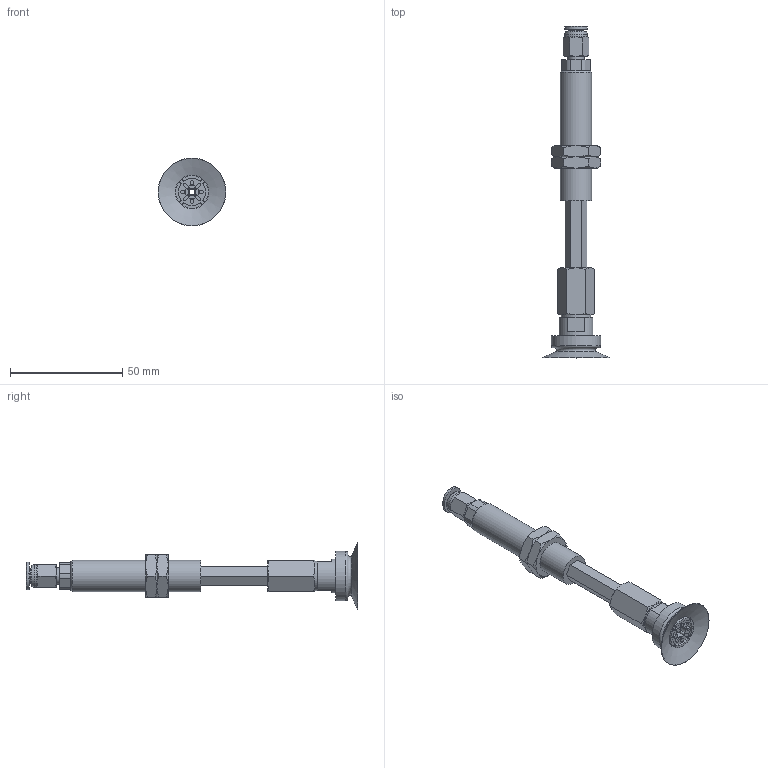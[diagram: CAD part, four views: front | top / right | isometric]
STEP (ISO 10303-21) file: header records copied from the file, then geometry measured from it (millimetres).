
FILE_DESCRIPTION(('STEP AP203'),'1');
FILE_NAME('-O.stp','2025-08-26T08:07:21',(' '),(' '),'Spatial InterOp 3D',' ',' ');
FILE_SCHEMA(('CONFIG_CONTROL_DESIGN'));
Length unit declared in the file: millimetre
Products named in the file (7): BNABPATH-30-30-※-O; NAPATH-30-30--M; ADAPTER; Nut-25-S; NAPATH-30-30--F; BPAG-30-※; PC-C_06-M5
Assembly tree (7 placements, depth 2):
  BNABPATH-30-30-※-O
    NAPATH-30-30--M
    ADAPTER
    Nut-25-S  x2
    NAPATH-30-30--F
    BPAG-30-※
    PC-C_06-M5
Bounding box: 30.3 x 148.18 x 30.3 mm (x, y, z)
Volume: 19950.7 mm3; surface area: 15931 mm2
Topology: 6 solids, 9 shells, 243 faces, 555 edges, 348 vertices
Faces by surface type: plane 106, cylinder 64, cone 62, torus 4, bspline 4, revolution 3
Full cylindrical faces by diameter (mm): 3 x3, 4 x2, 4.134 x1, 4.6 x1, 4.917 x1, 5 x1, 6 x1, 7 x1, 7.4 x1, 8.2 x1, 10 x1, 12.917 x2, 13 x1, 14 x1, 15 x1, 22 x1
Entity records: 6843 total; most frequent: CARTESIAN_POINT 1693, DIRECTION 1022, ORIENTED_EDGE 926, EDGE_CURVE 465, AXIS2_PLACEMENT_3D 412, VERTEX_POINT 315, EDGE_LOOP 288, LINE 195
